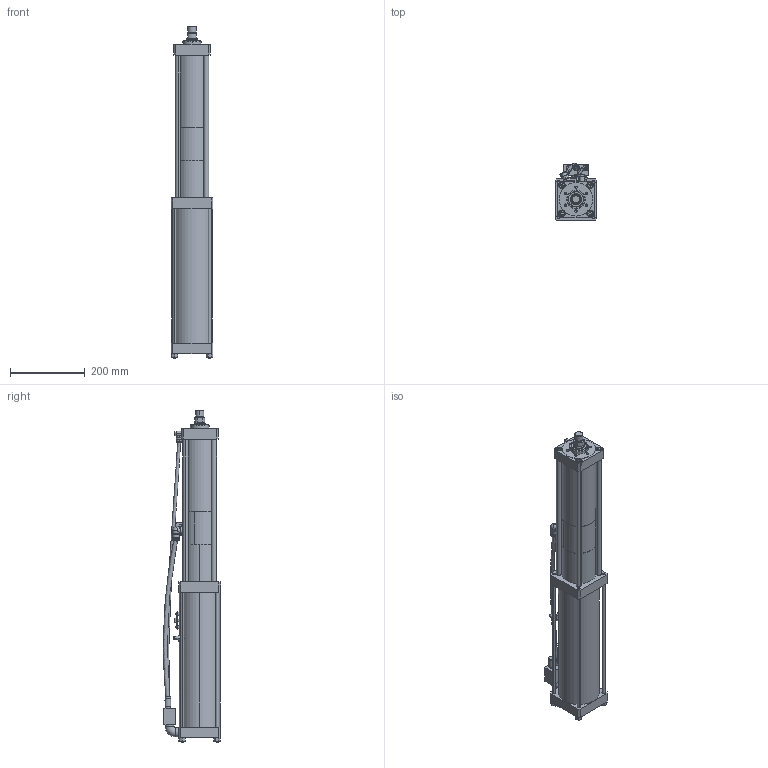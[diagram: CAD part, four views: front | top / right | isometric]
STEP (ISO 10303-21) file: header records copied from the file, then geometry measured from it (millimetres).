
FILE_DESCRIPTION (( 'STEP AP203' ), '1' );
FILE_NAME ('BS04-150-12S.step', '2025-07-31T09:39:40', ( 'Ranlm' ), ( '' ), 'SwSTEP 2.0', 'SolidWorks 2022', '' );
FILE_SCHEMA (( 'CONFIG_CONTROL_DESIGN' ));
Length unit declared in the file: millimetre
Products named in the file (1): BS04-150-12S
Bounding box: 112 x 153.6 x 891 mm (x, y, z)
Surface area: 536767 mm2 (no closed solid volume)
Topology: 0 solids, 53 shells, 528 faces, 1427 edges, 941 vertices
Faces by surface type: plane 230, cylinder 184, cone 85, torus 22, bspline 6, sphere 1
Entity records: 18102 total; most frequent: CARTESIAN_POINT 4504, DIRECTION 3044, ORIENTED_EDGE 2433, EDGE_CURVE 1419, AXIS2_PLACEMENT_3D 1164, VERTEX_POINT 940, LINE 716, VECTOR 716
